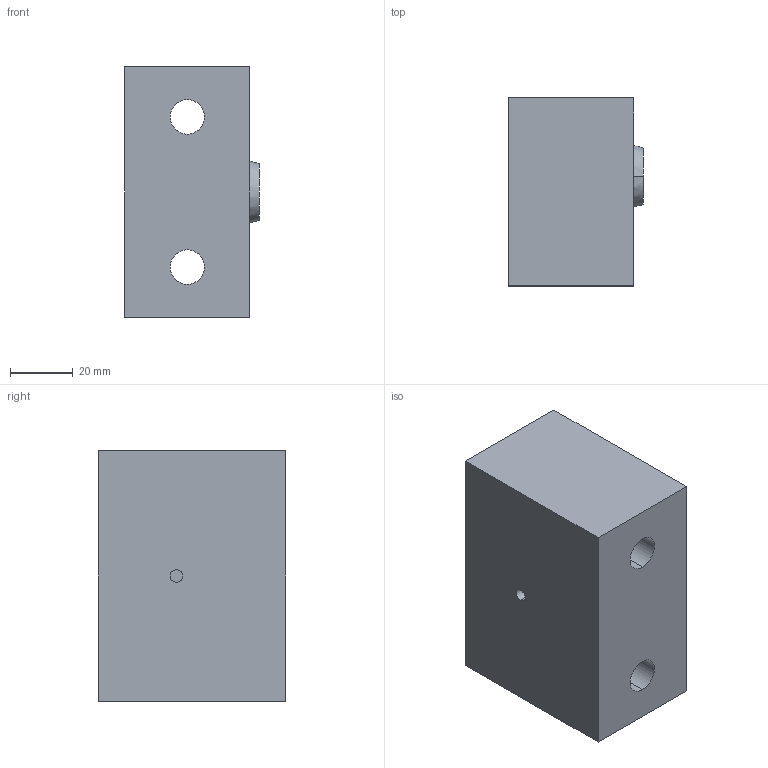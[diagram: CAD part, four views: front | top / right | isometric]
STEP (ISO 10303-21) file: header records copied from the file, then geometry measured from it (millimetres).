
FILE_DESCRIPTION(('CATIA V5 STEP Exchange'),'2;1');
FILE_NAME('C:\Users\Raffaele\Desktop\3D X SITO CF\750\STEP-2.03\750-040080.stp','2019-07-04T06:44:51+00:00',('none'),('none'),'CATIA Version 5 Release 20 GA (IN-10)','CATIA V5 STEP AP203','none');
FILE_SCHEMA(('CONFIG_CONTROL_DESIGN'));
Length unit declared in the file: millimetre
Products named in the file (1): 750-040080
Bounding box: 43 x 60 x 80 mm (x, y, z)
Volume: 173873.4 mm3; surface area: 27209.4 mm2
Topology: 1 solids, 1 shells, 28 faces, 88 edges, 66 vertices
Faces by surface type: cylinder 13, plane 11, cone 4
Entity records: 1236 total; most frequent: CARTESIAN_POINT 407, ORIENTED_EDGE 176, DIRECTION 131, EDGE_CURVE 88, AXIS2_PLACEMENT_3D 74, VERTEX_POINT 66, CIRCLE 45, EDGE_LOOP 36
